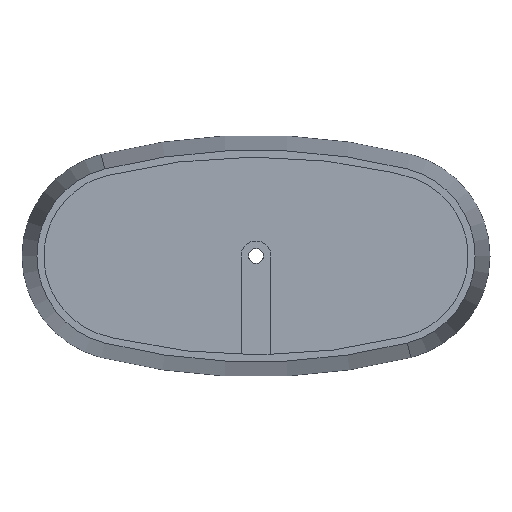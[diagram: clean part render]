
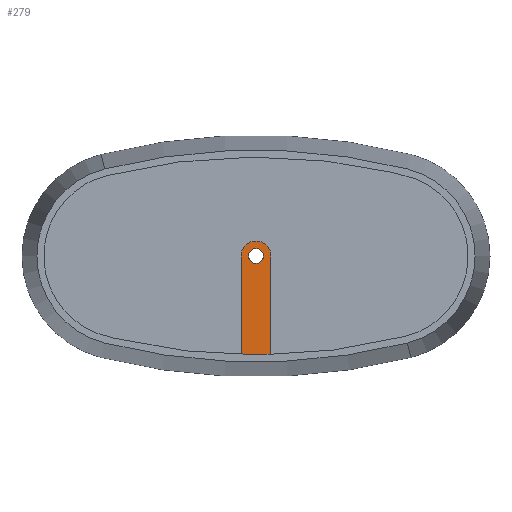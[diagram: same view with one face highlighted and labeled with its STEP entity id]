
A CAD part, front view. The second image highlights one B-rep face of the part: STEP entity #279.
In plain terms, the highlighted planar face has unit normal (0, -1, 0).
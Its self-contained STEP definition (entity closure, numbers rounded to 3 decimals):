
#238 = EDGE_CURVE ( 'NONE', #4507, #3047, #2685, .T. ) ;
#279 = ADVANCED_FACE ( 'NONE', ( #5872, #4711 ), #7933, .T. ) ;
#453 = AXIS2_PLACEMENT_3D ( 'NONE', #856, #5235, #1505 ) ;
#539 = ORIENTED_EDGE ( 'NONE', *, *, #573, .F. ) ;
#573 = EDGE_CURVE ( 'NONE', #4523, #806, #1125, .T. ) ;
#707 = ORIENTED_EDGE ( 'NONE', *, *, #4855, .F. ) ;
#806 = VERTEX_POINT ( 'NONE', #6129 ) ;
#856 = CARTESIAN_POINT ( 'NONE',  ( 0., -510., 0. ) ) ;
#1001 = VERTEX_POINT ( 'NONE', #2559 ) ;
#1125 = B_SPLINE_CURVE_WITH_KNOTS ( 'NONE', 3,
 ( #6219, #5628, #5580, #5637 ),
 .UNSPECIFIED., .F., .F.,
 ( 4, 4 ),
 ( 0., 0.1 ),
 .UNSPECIFIED. ) ;
#1227 = VECTOR ( 'NONE', #6703, 1000. ) ;
#1295 = DIRECTION ( 'NONE',  ( 0., -1., 0. ) ) ;
#1407 = AXIS2_PLACEMENT_3D ( 'NONE', #5027, #1295, #5648 ) ;
#1505 = DIRECTION ( 'NONE',  ( 0., 0., -1. ) ) ;
#2018 = CARTESIAN_POINT ( 'NONE',  ( 0., -510., 0. ) ) ;
#2026 = CIRCLE ( 'NONE', #1407, 25. ) ;
#2061 = ORIENTED_EDGE ( 'NONE', *, *, #2758, .F. ) ;
#2263 = ORIENTED_EDGE ( 'NONE', *, *, #8060, .T. ) ;
#2408 = CARTESIAN_POINT ( 'NONE',  ( -50., -510., 0. ) ) ;
#2559 = CARTESIAN_POINT ( 'NONE',  ( 0., -510., 25. ) ) ;
#2640 = DIRECTION ( 'NONE',  ( 0., 0., -1. ) ) ;
#2652 = CARTESIAN_POINT ( 'NONE',  ( 50., -510., -338.51 ) ) ;
#2685 = CIRCLE ( 'NONE', #6018, 50. ) ;
#2758 = EDGE_CURVE ( 'NONE', #6283, #1001, #2026, .T. ) ;
#2844 = CIRCLE ( 'NONE', #453, 25. ) ;
#3001 = CARTESIAN_POINT ( 'NONE',  ( 50., -510., 0. ) ) ;
#3047 = VERTEX_POINT ( 'NONE', #2408 ) ;
#3048 = CARTESIAN_POINT ( 'NONE',  ( 50., -510., 0. ) ) ;
#3179 = DIRECTION ( 'NONE',  ( 0., 0., -1. ) ) ;
#3365 = AXIS2_PLACEMENT_3D ( 'NONE', #2018, #6363, #2640 ) ;
#3833 = ORIENTED_EDGE ( 'NONE', *, *, #5691, .T. ) ;
#4296 = CARTESIAN_POINT ( 'NONE',  ( -50., -510., 0. ) ) ;
#4319 = ORIENTED_EDGE ( 'NONE', *, *, #6921, .T. ) ;
#4341 = LINE ( 'NONE', #3001, #1227 ) ;
#4426 = DIRECTION ( 'NONE',  ( 0., -1., 0. ) ) ;
#4507 = VERTEX_POINT ( 'NONE', #7578 ) ;
#4523 = VERTEX_POINT ( 'NONE', #2652 ) ;
#4606 = VECTOR ( 'NONE', #7396, 1000. ) ;
#4711 = FACE_OUTER_BOUND ( 'NONE', #6827, .T. ) ;
#4855 = EDGE_CURVE ( 'NONE', #1001, #6283, #2844, .T. ) ;
#4914 = LINE ( 'NONE', #4296, #4606 ) ;
#5027 = CARTESIAN_POINT ( 'NONE',  ( 0., -510., 0. ) ) ;
#5235 = DIRECTION ( 'NONE',  ( 0., -1., 0. ) ) ;
#5395 = CARTESIAN_POINT ( 'NONE',  ( 0., -510., -25. ) ) ;
#5495 = CARTESIAN_POINT ( 'NONE',  ( 0., -510., 0. ) ) ;
#5580 = CARTESIAN_POINT ( 'NONE',  ( -16.667, -510., -339.323 ) ) ;
#5628 = CARTESIAN_POINT ( 'NONE',  ( 16.667, -510., -339.323 ) ) ;
#5637 = CARTESIAN_POINT ( 'NONE',  ( -50., -510., -338.51 ) ) ;
#5639 = VERTEX_POINT ( 'NONE', #3048 ) ;
#5648 = DIRECTION ( 'NONE',  ( 0., 0., -1. ) ) ;
#5691 = EDGE_CURVE ( 'NONE', #3047, #806, #4914, .T. ) ;
#5872 = FACE_BOUND ( 'NONE', #6152, .T. ) ;
#6018 = AXIS2_PLACEMENT_3D ( 'NONE', #5495, #4426, #3179 ) ;
#6129 = CARTESIAN_POINT ( 'NONE',  ( -50., -510., -338.51 ) ) ;
#6152 = EDGE_LOOP ( 'NONE', ( #707, #2061 ) ) ;
#6219 = CARTESIAN_POINT ( 'NONE',  ( 50., -510., -338.51 ) ) ;
#6283 = VERTEX_POINT ( 'NONE', #5395 ) ;
#6363 = DIRECTION ( 'NONE',  ( 0., -1., 0. ) ) ;
#6703 = DIRECTION ( 'NONE',  ( 0., 0., 1. ) ) ;
#6827 = EDGE_LOOP ( 'NONE', ( #539, #2263, #4319, #7909, #3833 ) ) ;
#6833 = CARTESIAN_POINT ( 'NONE',  ( 0., -510., 0. ) ) ;
#6921 = EDGE_CURVE ( 'NONE', #5639, #4507, #7107, .T. ) ;
#7107 = CIRCLE ( 'NONE', #3365, 50. ) ;
#7396 = DIRECTION ( 'NONE',  ( 0., 0., -1. ) ) ;
#7399 = DIRECTION ( 'NONE',  ( 0., -1., 0. ) ) ;
#7428 = DIRECTION ( 'NONE',  ( 0., 0., -1. ) ) ;
#7578 = CARTESIAN_POINT ( 'NONE',  ( 0., -510., 50. ) ) ;
#7672 = AXIS2_PLACEMENT_3D ( 'NONE', #6833, #7399, #7428 ) ;
#7909 = ORIENTED_EDGE ( 'NONE', *, *, #238, .T. ) ;
#7933 = PLANE ( 'NONE',  #7672 ) ;
#8060 = EDGE_CURVE ( 'NONE', #4523, #5639, #4341, .T. ) ;
